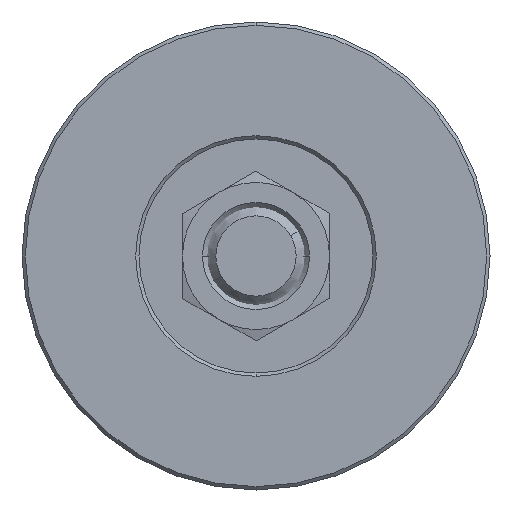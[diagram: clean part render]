
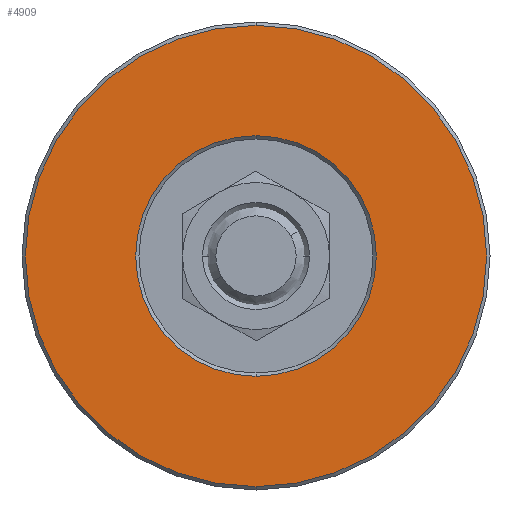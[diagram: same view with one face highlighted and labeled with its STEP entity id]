
A CAD part, front view. The second image highlights one B-rep face of the part: STEP entity #4909.
In plain terms, the highlighted planar face has unit normal (0, -1, 0).
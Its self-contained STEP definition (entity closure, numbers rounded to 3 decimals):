
#169 = DIRECTION ( 'NONE',  ( 0., 0., -1. ) ) ;
#199 = DIRECTION ( 'NONE',  ( 0., 1., 0. ) ) ;
#433 = ORIENTED_EDGE ( 'NONE', *, *, #5388, .T. ) ;
#467 = AXIS2_PLACEMENT_3D ( 'NONE', #1574, #3608, #5617 ) ;
#776 = VERTEX_POINT ( 'NONE', #2874 ) ;
#1059 = EDGE_CURVE ( 'NONE', #4310, #6108, #6923, .T. ) ;
#1182 = CIRCLE ( 'NONE', #1615, 34.5 ) ;
#1371 = DIRECTION ( 'NONE',  ( 0., 0., -1. ) ) ;
#1574 = CARTESIAN_POINT ( 'NONE',  ( 0., 0., 0. ) ) ;
#1615 = AXIS2_PLACEMENT_3D ( 'NONE', #6728, #4044, #1371 ) ;
#1913 = CIRCLE ( 'NONE', #5630, 18. ) ;
#2344 = FACE_BOUND ( 'NONE', #4986, .T. ) ;
#2635 = CARTESIAN_POINT ( 'NONE',  ( 0., 0., -18. ) ) ;
#2744 = CARTESIAN_POINT ( 'NONE',  ( 0., 0., 0. ) ) ;
#2774 = PLANE ( 'NONE',  #6729 ) ;
#2874 = CARTESIAN_POINT ( 'NONE',  ( 0., 0., 18. ) ) ;
#3077 = CIRCLE ( 'NONE', #467, 18. ) ;
#3604 = CARTESIAN_POINT ( 'NONE',  ( 0., 0., 0. ) ) ;
#3608 = DIRECTION ( 'NONE',  ( 0., 1., 0. ) ) ;
#4007 = EDGE_LOOP ( 'NONE', ( #5903, #6142 ) ) ;
#4044 = DIRECTION ( 'NONE',  ( 0., -1., 0. ) ) ;
#4217 = EDGE_CURVE ( 'NONE', #6108, #4310, #1182, .T. ) ;
#4310 = VERTEX_POINT ( 'NONE', #6165 ) ;
#4739 = DIRECTION ( 'NONE',  ( 0., 0., -1. ) ) ;
#4909 = ADVANCED_FACE ( 'NONE', ( #8150, #2344 ), #2774, .T. ) ;
#4986 = EDGE_LOOP ( 'NONE', ( #433, #7185 ) ) ;
#5006 = AXIS2_PLACEMENT_3D ( 'NONE', #2744, #6804, #4739 ) ;
#5388 = EDGE_CURVE ( 'NONE', #7400, #776, #3077, .T. ) ;
#5397 = DIRECTION ( 'NONE',  ( 0., -1., 0. ) ) ;
#5617 = DIRECTION ( 'NONE',  ( 0., 0., -1. ) ) ;
#5630 = AXIS2_PLACEMENT_3D ( 'NONE', #3604, #199, #169 ) ;
#5903 = ORIENTED_EDGE ( 'NONE', *, *, #4217, .T. ) ;
#6108 = VERTEX_POINT ( 'NONE', #7875 ) ;
#6142 = ORIENTED_EDGE ( 'NONE', *, *, #1059, .T. ) ;
#6165 = CARTESIAN_POINT ( 'NONE',  ( 0., 0., -34.5 ) ) ;
#6728 = CARTESIAN_POINT ( 'NONE',  ( 0., 0., 0. ) ) ;
#6729 = AXIS2_PLACEMENT_3D ( 'NONE', #8049, #5397, #7366 ) ;
#6804 = DIRECTION ( 'NONE',  ( 0., -1., 0. ) ) ;
#6923 = CIRCLE ( 'NONE', #5006, 34.5 ) ;
#7185 = ORIENTED_EDGE ( 'NONE', *, *, #7722, .T. ) ;
#7366 = DIRECTION ( 'NONE',  ( 0., 0., -1. ) ) ;
#7400 = VERTEX_POINT ( 'NONE', #2635 ) ;
#7722 = EDGE_CURVE ( 'NONE', #776, #7400, #1913, .T. ) ;
#7875 = CARTESIAN_POINT ( 'NONE',  ( 0., 0., 34.5 ) ) ;
#8049 = CARTESIAN_POINT ( 'NONE',  ( 17.5, 0., 0. ) ) ;
#8150 = FACE_OUTER_BOUND ( 'NONE', #4007, .T. ) ;
